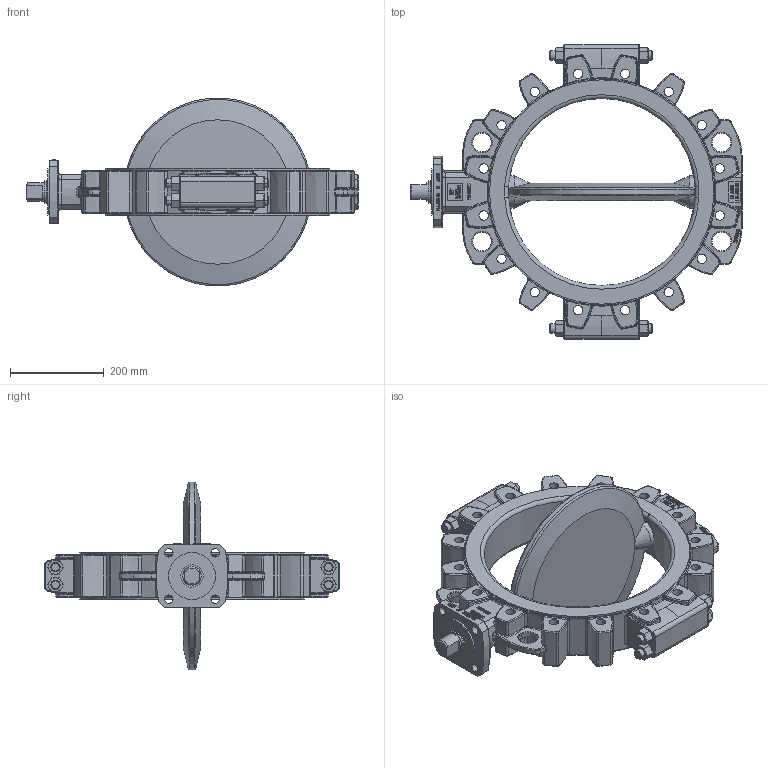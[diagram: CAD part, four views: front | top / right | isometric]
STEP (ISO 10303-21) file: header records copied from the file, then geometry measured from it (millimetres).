
FILE_DESCRIPTION((''),'2;1');
FILE_NAME('9520-00-5107_A_SW0002','2013-09-20T',('smarkstein'),(''),'PRO/ENGINEER BY PARAMETRIC TECHNOLOGY CORPORATION, 2011040','PRO/ENGINEER BY PARAMETRIC TECHNOLOGY CORPORATION, 2011040','');
FILE_SCHEMA(('CONFIG_CONTROL_DESIGN'));
Products named in the file (1): 9520-00-5107_A_SW0002
Bounding box: 710 x 630 x 401.89 mm (x, y, z)
Volume: 14916800.7 mm3; surface area: 1402427.3 mm2
Topology: 1 solids, 1 shells, 3752 faces, 9939 edges, 6323 vertices
Faces by surface type: plane 2458, cylinder 386, torus 368, bspline 338, cone 138, extrusion 60, revolution 2, sphere 2
Entity records: 136973 total; most frequent: CARTESIAN_POINT 45940, ORIENTED_EDGE 19878, DIRECTION 17460, EDGE_CURVE 9939, VECTOR 7170, LINE 7110, VERTEX_POINT 6323, AXIS2_PLACEMENT_3D 5144
